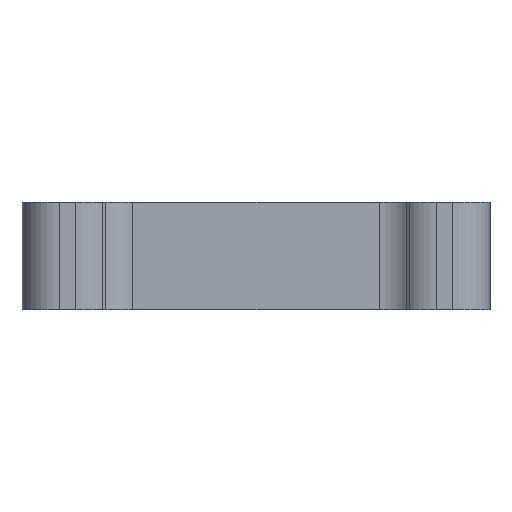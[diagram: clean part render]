
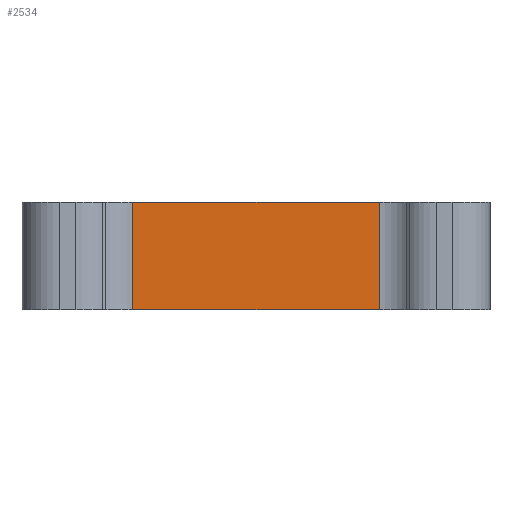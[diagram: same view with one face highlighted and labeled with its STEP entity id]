
A CAD part, left-side view. The second image highlights one B-rep face of the part: STEP entity #2534.
In plain terms, the highlighted planar face has unit normal (-1, 0, 0).
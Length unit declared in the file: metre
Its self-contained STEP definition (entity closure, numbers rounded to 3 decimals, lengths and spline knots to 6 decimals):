
#976=ORIENTED_EDGE('',*,*,#1144,.T.);
#977=ORIENTED_EDGE('',*,*,#1437,.T.);
#978=ORIENTED_EDGE('',*,*,#1130,.T.);
#979=ORIENTED_EDGE('',*,*,#1438,.T.);
#1130=EDGE_CURVE('',#1512,#1511,#1750,.T.);
#1144=EDGE_CURVE('',#1524,#1523,#1757,.T.);
#1437=EDGE_CURVE('',#1523,#1512,#1873,.T.);
#1438=EDGE_CURVE('',#1511,#1524,#1874,.F.);
#1511=VERTEX_POINT('',#3327);
#1512=VERTEX_POINT('',#3329);
#1523=VERTEX_POINT('',#3356);
#1524=VERTEX_POINT('',#3358);
#1750=LINE('',#3328,#1928);
#1757=LINE('',#3357,#1935);
#1873=LINE('',#4710,#2051);
#1874=LINE('',#4711,#2052);
#1928=VECTOR('',#2818,1.);
#1935=VECTOR('',#2845,1.);
#2051=VECTOR('',#3139,1.);
#2052=VECTOR('',#3140,1.);
#2190=EDGE_LOOP('',(#976,#977,#978,#979));
#2339=FACE_BOUND('',#2190,.T.);
#2415=PLANE('',#2695);
#2534=ADVANCED_FACE('',(#2339),#2415,.F.);
#2695=AXIS2_PLACEMENT_3D('',#4709,#3137,#3138);
#2818=DIRECTION('',(0.,-1.,0.));
#2845=DIRECTION('',(0.,1.,0.));
#3137=DIRECTION('',(1.,0.,0.));
#3138=DIRECTION('',(0.,0.,-1.));
#3139=DIRECTION('',(0.,0.,-1.));
#3140=DIRECTION('',(0.,0.,-1.));
#3327=CARTESIAN_POINT('',(-0.035,-0.009757,0.005));
#3328=CARTESIAN_POINT('',(-0.035,0.,0.005));
#3329=CARTESIAN_POINT('',(-0.035,0.009757,0.005));
#3356=CARTESIAN_POINT('',(-0.035,0.009757,0.0135));
#3357=CARTESIAN_POINT('',(-0.035,0.,0.0135));
#3358=CARTESIAN_POINT('',(-0.035,-0.009757,0.0135));
#4709=CARTESIAN_POINT('',(-0.035,0.,0.03));
#4710=CARTESIAN_POINT('',(-0.035,0.009757,0.005));
#4711=CARTESIAN_POINT('',(-0.035,-0.009757,0.0135));
